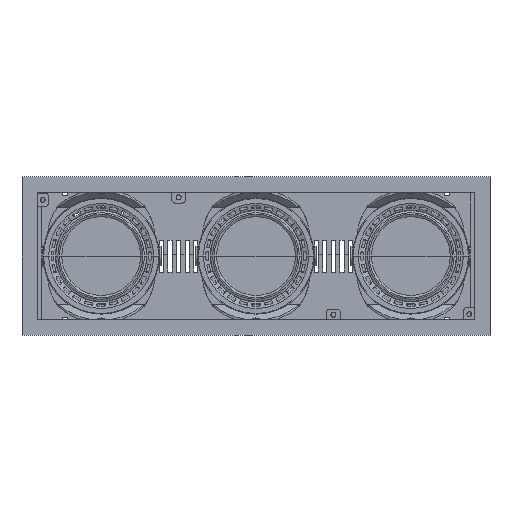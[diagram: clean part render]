
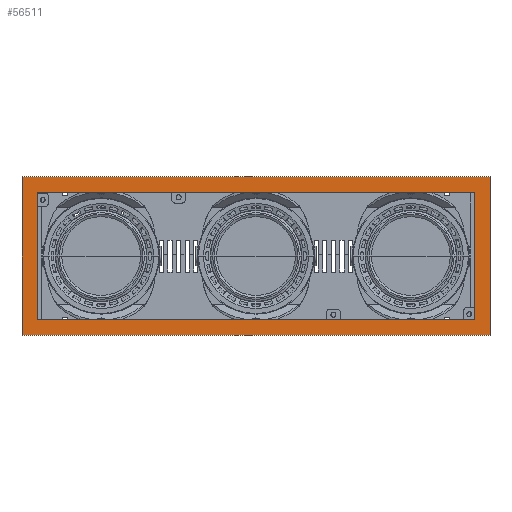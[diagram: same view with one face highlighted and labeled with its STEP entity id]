
A CAD part, top view. The second image highlights one B-rep face of the part: STEP entity #56511.
In plain terms, the highlighted planar face has unit normal (0, 0, 1).
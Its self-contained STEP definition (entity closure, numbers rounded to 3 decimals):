
#349=FACE_BOUND('',#20041,.T.);
#7154=LINE('',#112443,#11228);
#7158=LINE('',#112451,#11232);
#7161=LINE('',#112457,#11235);
#7164=LINE('',#112462,#11238);
#7166=LINE('',#112467,#11240);
#7170=LINE('',#112475,#11244);
#7173=LINE('',#112481,#11247);
#7176=LINE('',#112486,#11250);
#11228=VECTOR('',#78506,304.8);
#11232=VECTOR('',#78512,304.8);
#11235=VECTOR('',#78517,304.8);
#11238=VECTOR('',#78522,304.8);
#11240=VECTOR('',#78526,304.8);
#11244=VECTOR('',#78532,304.8);
#11247=VECTOR('',#78537,304.8);
#11250=VECTOR('',#78542,304.8);
#13279=PLANE('',#62860);
#16503=FACE_OUTER_BOUND('',#20040,.T.);
#20040=EDGE_LOOP('',(#51714,#51715,#51716,#51717));
#20041=EDGE_LOOP('',(#51718,#51719,#51720,#51721));
#28076=VERTEX_POINT('',#112441);
#28077=VERTEX_POINT('',#112442);
#28080=VERTEX_POINT('',#112450);
#28082=VERTEX_POINT('',#112456);
#28084=VERTEX_POINT('',#112465);
#28085=VERTEX_POINT('',#112466);
#28088=VERTEX_POINT('',#112474);
#28090=VERTEX_POINT('',#112480);
#36040=EDGE_CURVE('',#28076,#28077,#7154,.T.);
#36044=EDGE_CURVE('',#28080,#28076,#7158,.T.);
#36047=EDGE_CURVE('',#28082,#28080,#7161,.T.);
#36050=EDGE_CURVE('',#28077,#28082,#7164,.T.);
#36052=EDGE_CURVE('',#28084,#28085,#7166,.T.);
#36056=EDGE_CURVE('',#28088,#28084,#7170,.T.);
#36059=EDGE_CURVE('',#28090,#28088,#7173,.T.);
#36062=EDGE_CURVE('',#28085,#28090,#7176,.T.);
#51714=ORIENTED_EDGE('',*,*,#36062,.T.);
#51715=ORIENTED_EDGE('',*,*,#36059,.T.);
#51716=ORIENTED_EDGE('',*,*,#36056,.T.);
#51717=ORIENTED_EDGE('',*,*,#36052,.T.);
#51718=ORIENTED_EDGE('',*,*,#36050,.T.);
#51719=ORIENTED_EDGE('',*,*,#36047,.T.);
#51720=ORIENTED_EDGE('',*,*,#36044,.T.);
#51721=ORIENTED_EDGE('',*,*,#36040,.T.);
#56511=ADVANCED_FACE('',(#16503,#349),#13279,.T.);
#62860=AXIS2_PLACEMENT_3D('',#112489,#78546,#78547);
#78506=DIRECTION('',(1.,0.,0.));
#78512=DIRECTION('',(0.,1.,0.));
#78517=DIRECTION('',(-1.,0.,0.));
#78522=DIRECTION('',(0.,-1.,0.));
#78526=DIRECTION('',(0.,1.,0.));
#78532=DIRECTION('',(1.,0.,0.));
#78537=DIRECTION('',(0.,-1.,0.));
#78542=DIRECTION('',(-1.,0.,0.));
#78546=DIRECTION('center_axis',(0.,0.,1.));
#78547=DIRECTION('ref_axis',(-1.,0.,0.));
#112441=CARTESIAN_POINT('',(-193.35,56.5,1.175));
#112442=CARTESIAN_POINT('',(193.35,56.5,1.175));
#112443=CARTESIAN_POINT('',(-193.35,56.5,1.175));
#112450=CARTESIAN_POINT('',(-193.35,-56.5,1.175));
#112451=CARTESIAN_POINT('',(-193.35,-56.5,1.175));
#112456=CARTESIAN_POINT('',(193.35,-56.5,1.175));
#112457=CARTESIAN_POINT('',(193.35,-56.5,1.175));
#112462=CARTESIAN_POINT('',(193.35,56.5,1.175));
#112465=CARTESIAN_POINT('',(206.85,-70.,1.175));
#112466=CARTESIAN_POINT('',(206.85,70.,1.175));
#112467=CARTESIAN_POINT('',(206.85,-70.,1.175));
#112474=CARTESIAN_POINT('',(-206.85,-70.,1.175));
#112475=CARTESIAN_POINT('',(-206.85,-70.,1.175));
#112480=CARTESIAN_POINT('',(-206.85,70.,1.175));
#112481=CARTESIAN_POINT('',(-206.85,70.,1.175));
#112486=CARTESIAN_POINT('',(206.85,70.,1.175));
#112489=CARTESIAN_POINT('Origin',(-86.5,70.,1.175));
